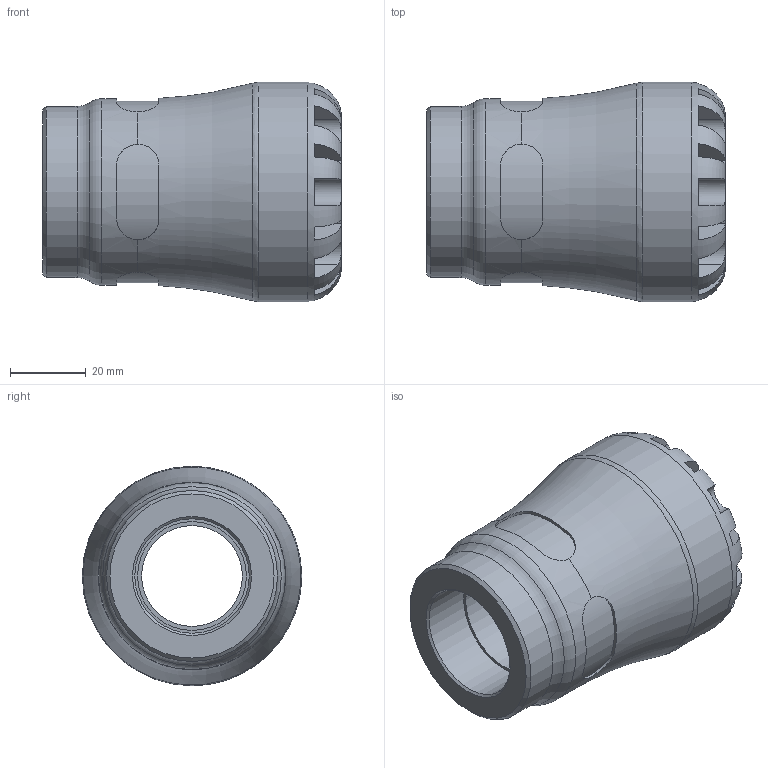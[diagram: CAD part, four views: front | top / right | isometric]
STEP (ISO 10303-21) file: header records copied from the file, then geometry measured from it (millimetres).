
FILE_DESCRIPTION(/* description */ ('PLASSON FEMALE ADAPTOR 32x1" SERIES 1'),/* implementation_level */ '2;1');
FILE_NAME(/* name */ 'C:\Dropbox\KIMPROJECTS-Inventor\99-16-3568-Processing\S1\27.01.19\1003G\1003G0032010_1903G0032010.ipt.stp',/* time_stamp */ '2019-01-27T09:12:06+02:00',/* author */ ('KIM'),/* organization */ (''),/* preprocessor_version */ 'ST-DEVELOPER v15.6',/* originating_system */ 'Autodesk Inventor 2015',/* authorisation */ '');
FILE_SCHEMA (('AUTOMOTIVE_DESIGN { 1 0 10303 214 3 1 1 }'));
Length unit declared in the file: millimetre
Products named in the file (1): 1003G0032010_1903G0032010
Bounding box: 79 x 58 x 58 mm (x, y, z)
Volume: 103743.2 mm3; surface area: 24786.3 mm2
Topology: 1 solids, 1 shells, 104 faces, 265 edges, 166 vertices
Faces by surface type: plane 61, cylinder 35, torus 5, cone 3
Full cylindrical faces by diameter (mm): 26.667 x1, 28.776 x1, 30.291 x1, 32 x1, 45.24 x1, 49.3 x1, 58 x1
Entity records: 3850 total; most frequent: CARTESIAN_POINT 1463, ORIENTED_EDGE 492, DIRECTION 478, EDGE_CURVE 246, AXIS2_PLACEMENT_3D 199, VERTEX_POINT 162, EDGE_LOOP 124, FACE_OUTER_BOUND 104
